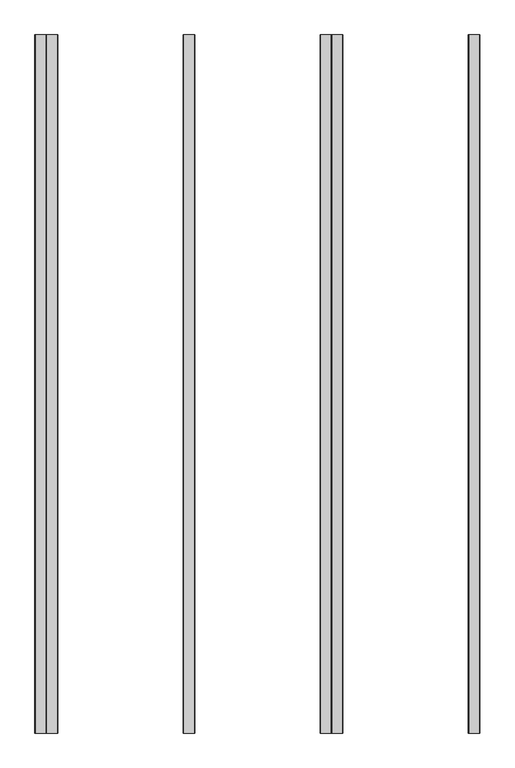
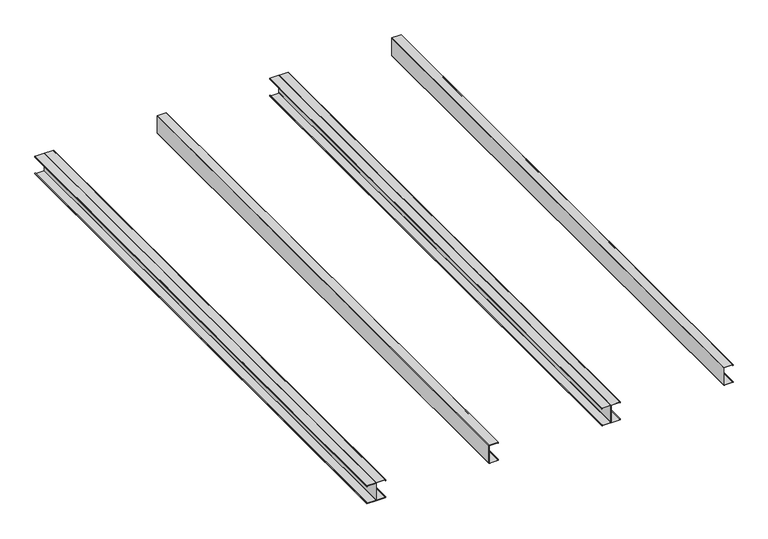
"""IFC4 building model written with IfcOpenShell, lengths in millimetres: proxy geometry, C and 2xCprofile 100mm : C and 2xCprofile 100mm."""

from ifc_helpers import new_model, si_unit, point, frame, frame_2d, origin, place, context, project, spatial, polyline, circle_curve, trimmed, segment, composite_curve, outline, extrude, source, transform, mapped, element, save


def generic_models_c0b83f98(model_context):
    return source(origin(), model_context, "Body", "SweptSolid", [
        extrude(outline(composite_curve([segment(polyline([(49.2, 1825.7364592), (49.2, 1874.1364592), (45.8621458, 1874.1364592), (45.8621458, 1873.3097291), (47.5, 1873.3097291), (47.5, 1872.5097291), (46.0995706, 1872.5097291)]), True, "CONTINUOUS"), segment(trimmed(circle_curve(frame_2d((46.0995706, 1873.7230941)), 1.213365), [point((46.0995706, 1872.5097291))], [point((46.0995706, 1874.9364592))], False, "CARTESIAN"), True, "CONTINUOUS"), segment(polyline([(46.0995706, 1874.9364592), (49.3270817, 1874.9364592)]), True, "CONTINUOUS"), segment(trimmed(circle_curve(frame_2d((49.3270817, 1874.2635408)), 0.6729183), [point((49.3270817, 1874.9364592))], [point((50.0, 1874.2635408))], False, "CARTESIAN"), True, "CONTINUOUS"), segment(polyline([(50.0, 1874.2635408), (50.0, 1825.7364592)]), True, "CONTINUOUS"), segment(trimmed(circle_curve(frame_2d((49.2, 1825.7364592)), 0.8), [point((50.0, 1825.7364592))], [point((49.2, 1824.9364592))], False, "CARTESIAN"), True, "CONTINUOUS"), segment(polyline([(49.2, 1824.9364592), (-49.2, 1824.9364592)]), True, "CONTINUOUS"), segment(trimmed(circle_curve(frame_2d((-49.2, 1825.7364592)), 0.8), [point((-49.2, 1824.9364592))], [point((-50.0, 1825.7364592))], False, "CARTESIAN"), True, "CONTINUOUS"), segment(polyline([(-50.0, 1825.7364592), (-50.0, 1874.2635408)]), True, "CONTINUOUS"), segment(trimmed(circle_curve(frame_2d((-49.3270817, 1874.2635408)), 0.6729183), [point((-50.0, 1874.2635408))], [point((-49.3270817, 1874.9364592))], False, "CARTESIAN"), True, "CONTINUOUS"), segment(polyline([(-49.3270817, 1874.9364592), (-46.0995706, 1874.9364592)]), True, "CONTINUOUS"), segment(trimmed(circle_curve(frame_2d((-46.0995706, 1873.7230941)), 1.213365), [point((-46.0995706, 1874.9364592))], [point((-46.0995706, 1872.5097291))], False, "CARTESIAN"), True, "CONTINUOUS"), segment(polyline([(-46.0995706, 1872.5097291), (-47.5, 1872.5097291), (-47.5, 1873.3097291), (-45.8621458, 1873.3097291), (-45.8621458, 1874.1364592), (-49.2, 1874.1364592), (-49.2, 1825.7364592), (49.2, 1825.7364592)]), True, "CONTINUOUS")], self_intersect=False)), frame((0.0, 0.0, 0.0), z_axis=(0.0, 1.0, 0.0), x_axis=(0.0, 0.0, 1.0)), (0.0, 0.0, 1.0), 3060.0),
        extrude(outline(composite_curve([segment(polyline([(49.2, 575.7364592), (49.2, 624.1364592), (45.8621458, 624.1364592), (45.8621458, 623.3097291), (47.5, 623.3097291), (47.5, 622.5097291), (46.0995706, 622.5097291)]), True, "CONTINUOUS"), segment(trimmed(circle_curve(frame_2d((46.0995706, 623.7230941)), 1.213365), [point((46.0995706, 622.5097291))], [point((46.0995706, 624.9364592))], False, "CARTESIAN"), True, "CONTINUOUS"), segment(polyline([(46.0995706, 624.9364592), (49.3270817, 624.9364592)]), True, "CONTINUOUS"), segment(trimmed(circle_curve(frame_2d((49.3270817, 624.2635408)), 0.6729183), [point((49.3270817, 624.9364592))], [point((50.0, 624.2635408))], False, "CARTESIAN"), True, "CONTINUOUS"), segment(polyline([(50.0, 624.2635408), (50.0, 575.7364592)]), True, "CONTINUOUS"), segment(trimmed(circle_curve(frame_2d((49.2, 575.7364592)), 0.8), [point((50.0, 575.7364592))], [point((49.2, 574.9364592))], False, "CARTESIAN"), True, "CONTINUOUS"), segment(polyline([(49.2, 574.9364592), (-49.2, 574.9364592)]), True, "CONTINUOUS"), segment(trimmed(circle_curve(frame_2d((-49.2, 575.7364592)), 0.8), [point((-49.2, 574.9364592))], [point((-50.0, 575.7364592))], False, "CARTESIAN"), True, "CONTINUOUS"), segment(polyline([(-50.0, 575.7364592), (-50.0, 624.2635408)]), True, "CONTINUOUS"), segment(trimmed(circle_curve(frame_2d((-49.3270817, 624.2635408)), 0.6729183), [point((-50.0, 624.2635408))], [point((-49.3270817, 624.9364592))], False, "CARTESIAN"), True, "CONTINUOUS"), segment(polyline([(-49.3270817, 624.9364592), (-46.0995706, 624.9364592)]), True, "CONTINUOUS"), segment(trimmed(circle_curve(frame_2d((-46.0995706, 623.7230941)), 1.213365), [point((-46.0995706, 624.9364592))], [point((-46.0995706, 622.5097291))], False, "CARTESIAN"), True, "CONTINUOUS"), segment(polyline([(-46.0995706, 622.5097291), (-47.5, 622.5097291), (-47.5, 623.3097291), (-45.8621458, 623.3097291), (-45.8621458, 624.1364592), (-49.2, 624.1364592), (-49.2, 575.7364592), (49.2, 575.7364592)]), True, "CONTINUOUS")], self_intersect=False)), frame((0.0, 0.0, 0.0), z_axis=(0.0, 1.0, 0.0), x_axis=(0.0, 0.0, 1.0)), (0.0, 0.0, 1.0), 3060.0),
        extrude(outline(composite_curve([segment(polyline([(49.2, 1224.2), (-49.2, 1224.2), (-49.2, 1175.8), (-45.8621458, 1175.8), (-45.8621458, 1176.62673), (-47.5, 1176.62673), (-47.5, 1177.42673), (-46.0995706, 1177.42673)]), True, "CONTINUOUS"), segment(trimmed(circle_curve(frame_2d((-46.0995706, 1176.213365)), 1.213365), [point((-46.0995706, 1177.42673))], [point((-46.0995706, 1175.0))], False, "CARTESIAN"), True, "CONTINUOUS"), segment(polyline([(-46.0995706, 1175.0), (-49.3270817, 1175.0)]), True, "CONTINUOUS"), segment(trimmed(circle_curve(frame_2d((-49.3270817, 1175.6729183)), 0.6729183), [point((-49.3270817, 1175.0))], [point((-50.0, 1175.6729183))], False, "CARTESIAN"), True, "CONTINUOUS"), segment(polyline([(-50.0, 1175.6729183), (-50.0, 1224.2)]), True, "CONTINUOUS"), segment(trimmed(circle_curve(frame_2d((-49.2, 1224.2)), 0.8), [point((-50.0, 1224.2))], [point((-49.2, 1225.0))], False, "CARTESIAN"), True, "CONTINUOUS"), segment(trimmed(circle_curve(frame_2d((-49.2, 1225.8)), 0.8), [point((-49.2, 1225.0))], [point((-50.0, 1225.8))], False, "CARTESIAN"), True, "CONTINUOUS"), segment(polyline([(-50.0, 1225.8), (-50.0, 1274.3270817)]), True, "CONTINUOUS"), segment(trimmed(circle_curve(frame_2d((-49.3270817, 1274.3270817)), 0.6729183), [point((-50.0, 1274.3270817))], [point((-49.3270817, 1275.0))], False, "CARTESIAN"), True, "CONTINUOUS"), segment(polyline([(-49.3270817, 1275.0), (-46.0995706, 1275.0)]), True, "CONTINUOUS"), segment(trimmed(circle_curve(frame_2d((-46.0995706, 1273.786635)), 1.213365), [point((-46.0995706, 1275.0))], [point((-46.0995706, 1272.57327))], False, "CARTESIAN"), True, "CONTINUOUS"), segment(polyline([(-46.0995706, 1272.57327), (-47.5, 1272.57327), (-47.5, 1273.37327), (-45.8621458, 1273.37327), (-45.8621458, 1274.2), (-49.2, 1274.2), (-49.2, 1225.8), (49.2, 1225.8), (49.2, 1274.2), (45.8621458, 1274.2), (45.8621458, 1273.37327), (47.5, 1273.37327), (47.5, 1272.57327), (46.0995706, 1272.57327)]), True, "CONTINUOUS"), segment(trimmed(circle_curve(frame_2d((46.0995706, 1273.786635)), 1.213365), [point((46.0995706, 1272.57327))], [point((46.0995706, 1275.0))], False, "CARTESIAN"), True, "CONTINUOUS"), segment(polyline([(46.0995706, 1275.0), (49.3270817, 1275.0)]), True, "CONTINUOUS"), segment(trimmed(circle_curve(frame_2d((49.3270817, 1274.3270817)), 0.6729183), [point((49.3270817, 1275.0))], [point((50.0, 1274.3270817))], False, "CARTESIAN"), True, "CONTINUOUS"), segment(polyline([(50.0, 1274.3270817), (50.0, 1225.8)]), True, "CONTINUOUS"), segment(trimmed(circle_curve(frame_2d((49.2, 1225.8)), 0.8), [point((50.0, 1225.8))], [point((49.2, 1225.0))], False, "CARTESIAN"), True, "CONTINUOUS"), segment(trimmed(circle_curve(frame_2d((49.2, 1224.2)), 0.8), [point((49.2, 1225.0))], [point((50.0, 1224.2))], False, "CARTESIAN"), True, "CONTINUOUS"), segment(polyline([(50.0, 1224.2), (50.0, 1175.6729183)]), True, "CONTINUOUS"), segment(trimmed(circle_curve(frame_2d((49.3270817, 1175.6729183)), 0.6729183), [point((50.0, 1175.6729183))], [point((49.3270817, 1175.0))], False, "CARTESIAN"), True, "CONTINUOUS"), segment(polyline([(49.3270817, 1175.0), (46.0995706, 1175.0)]), True, "CONTINUOUS"), segment(trimmed(circle_curve(frame_2d((46.0995706, 1176.213365)), 1.213365), [point((46.0995706, 1175.0))], [point((46.0995706, 1177.42673))], False, "CARTESIAN"), True, "CONTINUOUS"), segment(polyline([(46.0995706, 1177.42673), (47.5, 1177.42673), (47.5, 1176.62673), (45.8621458, 1176.62673), (45.8621458, 1175.8), (49.2, 1175.8), (49.2, 1224.2)]), True, "CONTINUOUS")], self_intersect=False)), frame((0.0, 0.0, 0.0), z_axis=(0.0, 1.0, 0.0), x_axis=(0.0, 0.0, 1.0)), (0.0, 0.0, 1.0), 3060.0),
        extrude(outline(composite_curve([segment(polyline([(49.2, -25.8), (-49.2, -25.8), (-49.2, -74.2), (-45.8621458, -74.2), (-45.8621458, -73.37327), (-47.5, -73.37327), (-47.5, -72.57327), (-46.0995706, -72.57327)]), True, "CONTINUOUS"), segment(trimmed(circle_curve(frame_2d((-46.0995706, -73.786635)), 1.213365), [point((-46.0995706, -72.57327))], [point((-46.0995706, -75.0))], False, "CARTESIAN"), True, "CONTINUOUS"), segment(polyline([(-46.0995706, -75.0), (-49.3270817, -75.0)]), True, "CONTINUOUS"), segment(trimmed(circle_curve(frame_2d((-49.3270817, -74.3270817)), 0.6729183), [point((-49.3270817, -75.0))], [point((-50.0, -74.3270817))], False, "CARTESIAN"), True, "CONTINUOUS"), segment(polyline([(-50.0, -74.3270817), (-50.0, -25.8)]), True, "CONTINUOUS"), segment(trimmed(circle_curve(frame_2d((-49.2, -25.8)), 0.8), [point((-50.0, -25.8))], [point((-49.2, -25.0))], False, "CARTESIAN"), True, "CONTINUOUS"), segment(trimmed(circle_curve(frame_2d((-49.2, -24.2)), 0.8), [point((-49.2, -25.0))], [point((-50.0, -24.2))], False, "CARTESIAN"), True, "CONTINUOUS"), segment(polyline([(-50.0, -24.2), (-50.0, 24.3270817)]), True, "CONTINUOUS"), segment(trimmed(circle_curve(frame_2d((-49.3270817, 24.3270817)), 0.6729183), [point((-50.0, 24.3270817))], [point((-49.3270817, 25.0))], False, "CARTESIAN"), True, "CONTINUOUS"), segment(polyline([(-49.3270817, 25.0), (-46.0995706, 25.0)]), True, "CONTINUOUS"), segment(trimmed(circle_curve(frame_2d((-46.0995706, 23.786635)), 1.213365), [point((-46.0995706, 25.0))], [point((-46.0995706, 22.57327))], False, "CARTESIAN"), True, "CONTINUOUS"), segment(polyline([(-46.0995706, 22.57327), (-47.5, 22.57327), (-47.5, 23.37327), (-45.8621458, 23.37327), (-45.8621458, 24.2), (-49.2, 24.2), (-49.2, -24.2), (49.2, -24.2), (49.2, 24.2), (45.8621458, 24.2), (45.8621458, 23.37327), (47.5, 23.37327), (47.5, 22.57327), (46.0995706, 22.57327)]), True, "CONTINUOUS"), segment(trimmed(circle_curve(frame_2d((46.0995706, 23.786635)), 1.213365), [point((46.0995706, 22.57327))], [point((46.0995706, 25.0))], False, "CARTESIAN"), True, "CONTINUOUS"), segment(polyline([(46.0995706, 25.0), (49.3270817, 25.0)]), True, "CONTINUOUS"), segment(trimmed(circle_curve(frame_2d((49.3270817, 24.3270817)), 0.6729183), [point((49.3270817, 25.0))], [point((50.0, 24.3270817))], False, "CARTESIAN"), True, "CONTINUOUS"), segment(polyline([(50.0, 24.3270817), (50.0, -24.2)]), True, "CONTINUOUS"), segment(trimmed(circle_curve(frame_2d((49.2, -24.2)), 0.8), [point((50.0, -24.2))], [point((49.2, -25.0))], False, "CARTESIAN"), True, "CONTINUOUS"), segment(trimmed(circle_curve(frame_2d((49.2, -25.8)), 0.8), [point((49.2, -25.0))], [point((50.0, -25.8))], False, "CARTESIAN"), True, "CONTINUOUS"), segment(polyline([(50.0, -25.8), (50.0, -74.3270817)]), True, "CONTINUOUS"), segment(trimmed(circle_curve(frame_2d((49.3270817, -74.3270817)), 0.6729183), [point((50.0, -74.3270817))], [point((49.3270817, -75.0))], False, "CARTESIAN"), True, "CONTINUOUS"), segment(polyline([(49.3270817, -75.0), (46.0995706, -75.0)]), True, "CONTINUOUS"), segment(trimmed(circle_curve(frame_2d((46.0995706, -73.786635)), 1.213365), [point((46.0995706, -75.0))], [point((46.0995706, -72.57327))], False, "CARTESIAN"), True, "CONTINUOUS"), segment(polyline([(46.0995706, -72.57327), (47.5, -72.57327), (47.5, -73.37327), (45.8621458, -73.37327), (45.8621458, -74.2), (49.2, -74.2), (49.2, -25.8)]), True, "CONTINUOUS")], self_intersect=False)), frame((0.0, 0.0, 0.0), z_axis=(0.0, 1.0, 0.0), x_axis=(0.0, 0.0, 1.0)), (0.0, 0.0, 1.0), 3060.0),
    ])


if __name__ == "__main__":
    model = new_model("IFC4")
    model_context = context("Model", 3, world=origin())
    ifc_project = project(units=[si_unit("LENGTHUNIT", "METRE", prefix="MILLI")], contexts=[model_context])
    site = spatial("IfcSite", under=ifc_project)
    building = spatial("IfcBuilding", under=site)
    placement = place(None, origin())
    generic_models_shape = generic_models_c0b83f98(model_context)
    element("IfcBuildingElementProxy", 1, Name="C and 2xCprofile 100mm : C and 2xCprofile 100mm", ObjectType="C and 2xCprofile 100mm : C and 2xCprofile 100mm", at=placement, inside=building, context=model_context, shape_type="MappedRepresentation", body=[
        mapped(generic_models_shape, transform((0.0, 0.0, 0.0), x_axis=(1.0, 0.0, 0.0), y_axis=(0.0, 1.0, 0.0), z_axis=(0.0, 0.0, 1.0))),
    ])
    save(model, "model.ifc")
